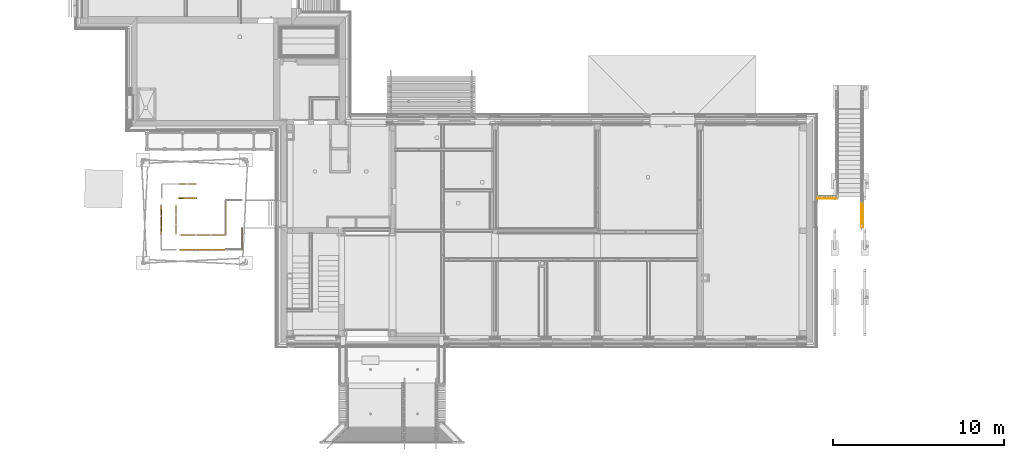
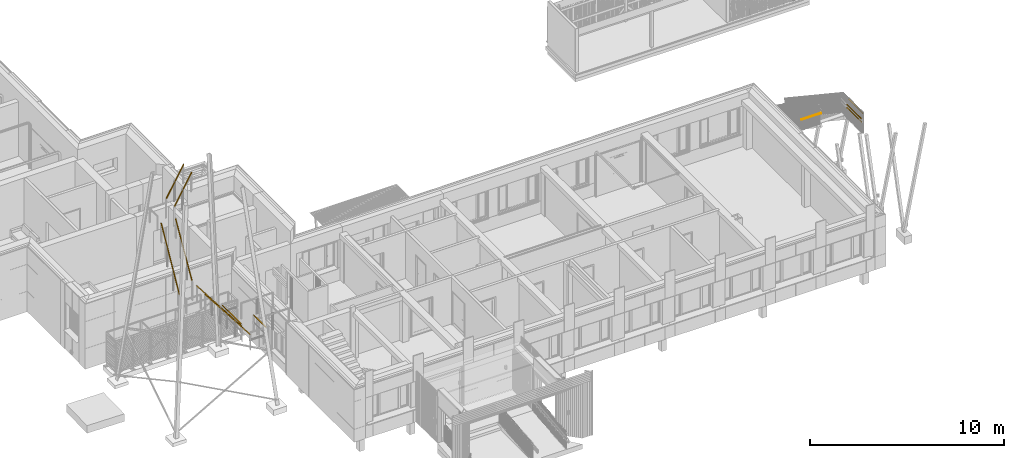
# One storey, part 169 of 418: 12 railings, 10 elements without a shape of their own.
"""IFC2X3 building model written with IfcOpenShell, lengths in millimetres."""

from ifc_helpers import new_model, entity, si_unit, converted_unit, derived_unit, money_unit, direction, frame, origin_with_axes, place, context, subcontext, project, spatial, faceted_brep, material, type_object, element, aggregate, save


model = new_model("IFC2X3")

# Units and contexts
model_context = context("Model", 3, precision=0.01, world=origin_with_axes(), true_north=direction((0.0, 1.0)))
body_context = subcontext(model_context, "Body", "Model", "MODEL_VIEW")
ifc_project = project(units=[si_unit("LENGTHUNIT", "METRE", prefix="MILLI"), si_unit("AREAUNIT", "SQUARE_METRE"), si_unit("VOLUMEUNIT", "CUBIC_METRE"), converted_unit("PLANEANGLEUNIT", "DEGREE", entity("IfcPlaneAngleMeasure", 0.0174532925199), si_unit("PLANEANGLEUNIT", "RADIAN"), dimensions=[0, 0, 0, 0, 0, 0, 0]), si_unit("SOLIDANGLEUNIT", "STERADIAN"), money_unit("EUR"), converted_unit("TIMEUNIT", "Year", entity("IfcTimeMeasure", 31556926.0), si_unit("TIMEUNIT", "SECOND"), dimensions=[0, 0, 1, 0, 0, 0, 0]), si_unit("MASSUNIT", "GRAM", prefix="KILO"), si_unit("THERMODYNAMICTEMPERATUREUNIT", "DEGREE_CELSIUS"), si_unit("LUMINOUSINTENSITYUNIT", "LUMEN"), si_unit("ENERGYUNIT", "JOULE", prefix="MEGA"), derived_unit("THERMALCONDUCTANCEUNIT", [(si_unit("POWERUNIT", "WATT"), 1), (si_unit("LENGTHUNIT", "METRE"), -1), (si_unit("THERMODYNAMICTEMPERATUREUNIT", "KELVIN"), -1)]), derived_unit("SPECIFICHEATCAPACITYUNIT", [(si_unit("ENERGYUNIT", "JOULE"), 1), (si_unit("MASSUNIT", "GRAM", prefix="KILO"), -1), (si_unit("THERMODYNAMICTEMPERATUREUNIT", "KELVIN"), -1)]), derived_unit("MASSDENSITYUNIT", [(si_unit("MASSUNIT", "GRAM", prefix="KILO"), 1), (si_unit("VOLUMEUNIT", "CUBIC_METRE"), -1)])], contexts=[model_context])

# Site, building, storey
site_placement = place(None, origin_with_axes())
site = spatial("IfcSite", under=ifc_project, at=site_placement, Name="Paldiski mnt 245/1, Tallinn, Harjumaa", CompositionType="COMPLEX")
building_placement = place(site_placement, origin_with_axes())
building = spatial("IfcBuilding", under=site, at=building_placement, Name="RKAS Hoone üldnimetus (kasutust iseloomustav) -> IFC Project Manager -> SOLIBRI", CompositionType="ELEMENT")
storey_placement = place(building_placement, origin_with_axes())
storey = spatial("IfcBuildingStorey", under=building, at=storey_placement, Name="Esimene korrus", CompositionType="ELEMENT", Elevation=0.0)

# Railings
railing_type_1 = type_object("IfcRailingType", Name="Railing Type", PredefinedType="NOTDEFINED")
railing_1_placement = place(storey_placement, frame((-13938.0000282, 1623.82640275, -670.434782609), z_axis=(0.0, 0.0, 1.0), x_axis=(0.773149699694, 0.634223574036, 0.0)))
railing_1 = element("IfcRailing", 1, at=railing_1_placement, inside=storey, type_object=railing_type_1, Name="Trepipiire", PredefinedType="NOTDEFINED")
ifc_material_1 = material(Name="RAL7016")
railing_type_2 = type_object("IfcRailingType", Name="IfcRailing", PredefinedType="GUARDRAIL")
railing_2_placement = place(railing_1_placement, frame((-4440.50312879, -5452.60977688, 5123.50895857), z_axis=(0.0, 0.0, 1.0), x_axis=(0.773149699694, -0.634223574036, 0.0)))
railing_2 = element("IfcRailing", 2, at=railing_2_placement, type_object=railing_type_2, material=ifc_material_1, PredefinedType="GUARDRAIL", context=body_context, shape_type="Brep", body=[
    faceted_brep([(25.0, 740.01108329, 16.9258240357), (25.0, 740.01108329, 26.9258240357), (25.0, -740.01108329, 26.9258240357), (25.0, -740.01108329, 16.9258240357), (-25.0, 740.01108329, 26.9258240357), (-25.0, 740.01108329, 16.9258240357), (-25.0, -740.01108329, 26.9258240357), (-25.0, -740.01108329, 16.9258240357)], [[[0, 1, 2, 3]], [[4, 1, 0, 5]], [[1, 4, 6, 2]], [[7, 3, 2, 6]], [[5, 0, 3, 7]], [[4, 5, 7, 6]]]),
])

railing_3_placement = place(storey_placement, frame((-50030.6058534, -4525.08408706, 3600.0), z_axis=(0.0, 0.0, 1.0), x_axis=(-0.773149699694, -0.634223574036, 0.0)))
railing_3 = element("IfcRailing", 3, at=railing_3_placement, inside=storey, type_object=railing_type_1, Name="PIIRE", PredefinedType="NOTDEFINED")
ifc_material_2 = material(Name="ET-07_Teras - Roostevaba")
railing_4_placement = place(railing_3_placement, frame((1550.44928879, 54.3337093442, 844.098300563), z_axis=(0.0, 0.0, 1.0), x_axis=(-0.773149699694, 0.634223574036, 0.0)))
railing_4 = element("IfcRailing", 4, at=railing_4_placement, type_object=railing_type_2, material=ifc_material_2, Name="Piirde Ülaosa - 001", PredefinedType="GUARDRAIL", context=body_context, shape_type="Brep", body=[
    faceted_brep([(-15.0, 975.339580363, 45.9016994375), (15.0, 975.339580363, 45.9016994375), (15.0, -975.339580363, 45.9016994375), (-15.0, -975.339580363, 45.9016994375), (-25.0, 975.339580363, 55.9016994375), (25.0, 975.339580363, 55.9016994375), (25.0, 975.339580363, 5.9016994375), (-25.0, 975.339580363, 5.9016994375), (15.0, 975.339580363, 15.9016994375), (-15.0, 975.339580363, 15.9016994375), (15.0, -975.339580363, 15.9016994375), (-25.0, -975.339580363, 5.9016994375), (25.0, -975.339580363, 5.9016994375), (25.0, -975.339580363, 55.9016994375), (-25.0, -975.339580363, 55.9016994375), (-15.0, -975.339580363, 15.9016994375)], [[[0, 1, 2, 3]], [[4, 5, 6, 7], [8, 1, 0, 9]], [[1, 8, 10, 2]], [[11, 12, 13, 14], [2, 10, 15, 3]], [[9, 0, 3, 15]], [[5, 4, 14, 13]], [[6, 5, 13, 12]], [[7, 6, 12, 11]], [[4, 7, 11, 14]], [[8, 9, 15, 10]]]),
])
aggregate(railing_3, [railing_4])

railing_5_placement = place(storey_placement, frame((-51169.8755361, -7415.24631697, 3489.375), z_axis=(0.0, 0.0, 1.0), x_axis=(-0.773149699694, -0.634223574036, 0.0)))
railing_5 = element("IfcRailing", 5, at=railing_5_placement, inside=storey, type_object=railing_type_1, Name="PIIRE", PredefinedType="NOTDEFINED")
railing_6_placement = place(railing_5_placement, frame((1038.82964649, -852.163884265, 844.098300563), z_axis=(0.0, 0.0, 1.0), x_axis=(-0.773149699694, 0.634223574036, 0.0)))
railing_6 = element("IfcRailing", 6, at=railing_6_placement, type_object=railing_type_2, material=ifc_material_2, Name="Piirde Ülaosa - 001", PredefinedType="GUARDRAIL", context=body_context, shape_type="Brep", body=[
    faceted_brep([(1343.63325356, 24.9999999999, 55.9016994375), (1304.17892428, 24.9999999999, 25.1876000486), (-1383.08758284, 25.0000000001, 3477.1624174), (-1343.63325356, 25.0000000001, 3507.87651678), (1343.63325356, -25.0000000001, 55.9016994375), (1304.17892428, -25.0000000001, 25.1876000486), (1335.7423877, 14.9999999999, 49.7588795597), (1312.06979014, 14.9999999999, 31.3304199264), (1312.06979014, -15.0000000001, 31.3304199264), (1335.7423877, -15.0000000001, 49.7588795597), (-1383.08758284, -24.9999999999, 3477.1624174), (-1343.63325356, -24.9999999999, 3507.87651678), (-1351.52411941, 15.0000000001, 3501.73369691), (-1351.52411941, -14.9999999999, 3501.73369691), (-1375.19671698, -14.9999999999, 3483.30523727), (-1375.19671698, 15.0000000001, 3483.30523727)], [[[0, 1, 2, 3]], [[0, 4, 5, 1], [6, 7, 8, 9]], [[1, 5, 10, 2]], [[3, 2, 10, 11], [12, 13, 14, 15]], [[4, 0, 3, 11]], [[5, 4, 11, 10]], [[7, 6, 12, 15]], [[8, 7, 15, 14]], [[9, 8, 14, 13]], [[6, 9, 13, 12]]]),
])
aggregate(railing_5, [railing_6])

railing_7_placement = place(storey_placement, frame((-50030.6058534, -6155.24631697, 3600.0), z_axis=(0.0, 0.0, 1.0), x_axis=(-0.773149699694, -0.634223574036, 0.0)))
railing_7 = element("IfcRailing", 7, at=railing_7_placement, inside=storey, type_object=railing_type_1, Name="PIIRE", PredefinedType="NOTDEFINED")
railing_8_placement = place(railing_7_placement, frame((558.05654008, 357.06847813, 844.098300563), z_axis=(0.0, 0.0, 1.0), x_axis=(-0.773149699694, 0.634223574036, 0.0)))
railing_8 = element("IfcRailing", 8, at=railing_8_placement, type_object=railing_type_2, material=ifc_material_2, Name="Piirde Ülaosa - 001", PredefinedType="GUARDRAIL", context=body_context, shape_type="Brep", body=[
    faceted_brep([(-25.0, 630.0, 55.9016994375), (-25.0, 630.0, 5.9016994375), (-25.0, -605.0, 5.9016994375), (-25.0, -605.0, 55.9016994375), (25.0, 630.0, 55.9016994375), (25.0, 630.0, 5.9016994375), (-15.0, 630.0, 45.9016994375), (-15.0, 630.0, 15.9016994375), (15.0, 630.0, 15.9016994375), (15.0, 630.0, 45.9016994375), (25.0, -655.0, 5.9016994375), (25.0, -655.0, 55.9016994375), (-15.0, -615.0, 45.9016994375), (15.0, -645.0, 45.9016994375), (15.0, -645.0, 15.9016994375), (-15.0, -615.0, 15.9016994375)], [[[0, 1, 2, 3]], [[0, 4, 5, 1], [6, 7, 8, 9]], [[1, 5, 10, 2]], [[3, 2, 10, 11], [12, 13, 14, 15]], [[4, 0, 3, 11]], [[5, 4, 11, 10]], [[7, 6, 12, 15]], [[8, 7, 15, 14]], [[9, 8, 14, 13]], [[6, 9, 13, 12]]]),
])
aggregate(railing_7, [railing_8])

railing_9_placement = place(storey_placement, frame((-51169.8755361, -6565.24631697, 3489.375), z_axis=(0.0, 0.0, 1.0), x_axis=(-0.769638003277, -0.638480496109, 0.0)))
railing_9 = element("IfcRailing", 9, at=railing_9_placement, inside=storey, type_object=railing_type_1, Name="PIIRE", PredefinedType="NOTDEFINED")
railing_10_placement = place(railing_9_placement, frame((1032.00238669, -856.134173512, 844.098300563), z_axis=(0.0, 0.0, 1.0), x_axis=(-0.769638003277, 0.638480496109, 0.0)))
railing_10 = element("IfcRailing", 10, at=railing_10_placement, type_object=railing_type_2, material=ifc_material_2, Name="Piirde Ülaosa - 001", PredefinedType="GUARDRAIL", context=body_context, shape_type="Brep", body=[
    faceted_brep([(1340.89322811, 25.0, 55.9016994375), (1301.30311508, 25.0, 25.3628233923), (-1380.48334114, 25.0, 3501.98811808), (-1340.89322811, 25.0, 3532.52699412), (1340.89322811, -25.0, 55.9016994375), (1301.30311508, -25.0, 25.3628233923), (1332.9752055, 15.0, 49.7939242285), (1309.22113768, 15.0, 31.4705986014), (1309.22113768, -15.0, 31.4705986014), (1332.9752055, -15.0, 49.7939242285), (-1380.48334114, -25.0, 3501.98811808), (-1340.89322811, -25.0, 3532.52699412), (-1348.81125072, 15.0, 3526.41921891), (-1348.81125072, -15.0, 3526.41921891), (-1372.56531854, -15.0, 3508.09589329), (-1372.56531854, 15.0, 3508.09589329)], [[[0, 1, 2, 3]], [[0, 4, 5, 1], [6, 7, 8, 9]], [[1, 5, 10, 2]], [[3, 2, 10, 11], [12, 13, 14, 15]], [[4, 0, 3, 11]], [[5, 4, 11, 10]], [[7, 6, 12, 15]], [[8, 7, 15, 14]], [[9, 8, 14, 13]], [[6, 9, 13, 12]]]),
])
aggregate(railing_9, [railing_10])

railing_11_placement = place(storey_placement, frame((-53974.8755361, -4417.03979706, 10484.375), z_axis=(0.0, 0.0, 1.0), x_axis=(-0.773149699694, -0.634223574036, 0.0)))
railing_11 = element("IfcRailing", 11, at=railing_11_placement, inside=storey, type_object=railing_type_1, Name="PIIRE", PredefinedType="NOTDEFINED")
railing_12_placement = place(railing_11_placement, frame((-399.537781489, 327.745428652, 1044.09830056), z_axis=(0.0, 0.0, 1.0), x_axis=(-0.773149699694, 0.634223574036, 0.0)))
railing_12 = element("IfcRailing", 12, at=railing_12_placement, type_object=railing_type_2, material=ifc_material_2, Name="Piirde Ülaosa - 001", PredefinedType="GUARDRAIL", context=body_context, shape_type="Brep", body=[
    faceted_brep([(-516.766392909, -25.0000000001, 55.9016994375), (-473.387774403, -25.0, 31.0361518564), (560.145011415, -24.9999999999, 1834.06197637), (516.766392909, -24.9999999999, 1858.92752395), (-516.766392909, 24.9999999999, 55.9016994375), (-473.387774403, 25.0, 31.0361518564), (-508.090669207, -15.0000000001, 50.9285899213), (-482.063498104, -15.0, 36.0092613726), (-482.063498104, 15.0, 36.0092613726), (-508.090669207, 14.9999999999, 50.9285899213), (560.145011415, 25.0000000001, 1834.06197637), (516.766392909, 25.0000000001, 1858.92752395), (525.44211661, -14.9999999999, 1853.95441443), (525.44211661, 15.0000000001, 1853.95441443), (551.469287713, 15.0000000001, 1839.03508588), (551.469287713, -14.9999999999, 1839.03508588)], [[[0, 1, 2, 3]], [[0, 4, 5, 1], [6, 7, 8, 9]], [[1, 5, 10, 2]], [[3, 2, 10, 11], [12, 13, 14, 15]], [[4, 0, 3, 11]], [[5, 4, 11, 10]], [[7, 6, 12, 15]], [[8, 7, 15, 14]], [[9, 8, 14, 13]], [[6, 9, 13, 12]]]),
])
aggregate(railing_11, [railing_12])

railing_13_placement = place(storey_placement, frame((-53974.8966499, -3578.67012715, 10477.0519033), z_axis=(0.0, 0.0, 1.0), x_axis=(-0.773149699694, -0.634223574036, 0.0)))
railing_13 = element("IfcRailing", 13, at=railing_13_placement, inside=storey, type_object=railing_type_1, Name="PIIRE", PredefinedType="NOTDEFINED")
railing_14_placement = place(railing_13_placement, frame((-399.545943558, 327.752124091, 1044.09830056), z_axis=(0.0, 0.0, 1.0), x_axis=(-0.773149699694, 0.634223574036, 0.0)))
railing_14 = element("IfcRailing", 14, at=railing_14_placement, type_object=railing_type_2, material=ifc_material_2, Name="Piirde Ülaosa - 001", PredefinedType="GUARDRAIL", context=body_context, shape_type="Brep", body=[
    faceted_brep([(-516.776949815, -25.0000000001, 55.9016994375), (-473.355174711, -25.0, 31.1115915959), (560.198724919, -24.9999999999, 1841.46051281), (516.776949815, -24.9999999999, 1866.25062065), (-516.776949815, 24.9999999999, 55.9016994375), (-473.355174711, 25.0, 31.1115915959), (-508.092594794, -15.0000000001, 50.9436778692), (-482.039529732, -15.0, 36.0696131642), (-482.039529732, 15.0, 36.0696131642), (-508.092594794, 14.9999999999, 50.9436778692), (560.198724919, 25.0000000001, 1841.46051281), (516.776949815, 25.0000000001, 1866.25062065), (525.461304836, -14.9999999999, 1861.29259908), (525.461304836, 15.0000000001, 1861.29259908), (551.514369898, 15.0000000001, 1846.41853438), (551.514369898, -14.9999999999, 1846.41853438)], [[[0, 1, 2, 3]], [[0, 4, 5, 1], [6, 7, 8, 9]], [[1, 5, 10, 2]], [[3, 2, 10, 11], [12, 13, 14, 15]], [[4, 0, 3, 11]], [[5, 4, 11, 10]], [[7, 6, 12, 15]], [[8, 7, 15, 14]], [[9, 8, 14, 13]], [[6, 9, 13, 12]]]),
])
aggregate(railing_13, [railing_14])

railing_15_placement = place(storey_placement, frame((-54969.9885641, -6809.15801731, 6695.37509918), z_axis=(0.0, 0.0, 1.0), x_axis=(-0.779497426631, -0.626405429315, 0.0)))
railing_15 = element("IfcRailing", 15, at=railing_15_placement, inside=storey, type_object=railing_type_1, Name="PIIRE", PredefinedType="NOTDEFINED")
railing_16_placement = place(railing_15_placement, frame((-635.082743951, -805.285235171, 1044.09830056), z_axis=(0.0, 0.0, 1.0), x_axis=(-0.779497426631, 0.626405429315, 0.0)))
railing_16 = element("IfcRailing", 16, at=railing_16_placement, type_object=railing_type_2, material=ifc_material_2, Name="Piirde Ülaosa - 001", PredefinedType="GUARDRAIL", context=body_context, shape_type="Brep", body=[
    faceted_brep([(14.3227040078, -957.4685536, 55.9016994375), (14.8061790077, -914.12005904, 30.9883642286), (36.1576614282, 1000.25942219, 3362.36855645), (35.6741864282, 956.910927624, 3387.28189166), (-35.6741864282, -956.910927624, 55.9016994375), (-35.1907114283, -913.562433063, 30.9883642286), (4.42002092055, -948.687329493, 50.9190323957), (4.71010592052, -922.678232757, 35.9710312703), (-25.2880283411, -922.343657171, 35.9710312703), (-25.5781133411, -948.352753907, 50.9190323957), (-13.8392290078, 1000.81704816, 3362.36855645), (-14.3227040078, 957.4685536, 3387.28189166), (25.771503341, 965.692151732, 3382.29922462), (-4.22663092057, 966.026727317, 3382.29922462), (-3.93654592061, 992.035824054, 3367.35122349), (26.061588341, 991.701248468, 3367.35122349)], [[[0, 1, 2, 3]], [[0, 4, 5, 1], [6, 7, 8, 9]], [[1, 5, 10, 2]], [[3, 2, 10, 11], [12, 13, 14, 15]], [[4, 0, 3, 11]], [[5, 4, 11, 10]], [[7, 6, 12, 15]], [[8, 7, 15, 14]], [[9, 8, 14, 13]], [[6, 9, 13, 12]]]),
])
aggregate(railing_15, [railing_16])

railing_17_placement = place(storey_placement, frame((-54128.7198793, -6586.53415052, 7130.64215171), z_axis=(0.0, 0.0, 1.0), x_axis=(-0.854429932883, -0.519566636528, 0.0)))
railing_17 = element("IfcRailing", 17, at=railing_17_placement, inside=storey, type_object=railing_type_1, Name="PIIRE", PredefinedType="NOTDEFINED")
railing_18_placement = place(railing_17_placement, frame((-489.744073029, -773.896923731, 1044.09830056), z_axis=(0.0, 0.0, 1.0), x_axis=(-0.854429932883, 0.519566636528, 0.0)))
railing_18 = element("IfcRailing", 18, at=railing_18_placement, type_object=railing_type_2, material=ifc_material_2, Name="Piirde Ülaosa - 001", PredefinedType="GUARDRAIL", context=body_context, shape_type="Brep", body=[
    faceted_brep([(27.5165194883, -844.333035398, 55.9016994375), (27.3877907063, -801.140538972, 30.7145661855), (22.3545296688, 887.67454869, 2926.82770588), (22.4832584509, 844.482052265, 2952.01483913), (-22.4832584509, -844.482052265, 55.9016994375), (-22.611987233, -801.28955584, 30.7145661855), (17.4908181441, -835.724339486, 50.8642727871), (17.4135808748, -809.808841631, 35.7519928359), (-12.5862858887, -809.898251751, 35.7519928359), (-12.5090486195, -835.813749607, 50.8642727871), (-27.6452482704, 887.525531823, 2926.82770588), (-27.5165194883, 844.333035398, 2952.01483913), (12.4575571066, 853.090748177, 2946.97741248), (-17.5423096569, 853.001338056, 2946.97741248), (-17.6195469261, 878.916835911, 2931.86513253), (12.3803198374, 879.006246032, 2931.86513253)], [[[0, 1, 2, 3]], [[0, 4, 5, 1], [6, 7, 8, 9]], [[1, 5, 10, 2]], [[3, 2, 10, 11], [12, 13, 14, 15]], [[4, 0, 3, 11]], [[5, 4, 11, 10]], [[7, 6, 12, 15]], [[8, 7, 15, 14]], [[9, 8, 14, 13]], [[6, 9, 13, 12]]]),
])
aggregate(railing_17, [railing_18])

railing_19_placement = place(storey_placement, frame((-15438.0000282, 781.88210964, -670.434782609), z_axis=(0.0, 0.0, 1.0), x_axis=(-0.773149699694, -0.634223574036, 0.0)))
railing_19 = element("IfcRailing", 19, at=railing_19_placement, inside=storey, type_object=railing_type_1, Name="Trepipiire", PredefinedType="NOTDEFINED")
railing_type_3 = type_object("IfcRailingType", Name="IfcRailing", PredefinedType="HANDRAIL")
railing_20_placement = place(railing_19_placement, frame((3730.46131201, 3659.12771487, 4605.71342306), z_axis=(0.0, 0.0, 1.0), x_axis=(-0.773149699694, 0.634223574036, 0.0)))
railing_20 = element("IfcRailing", 20, at=railing_20_placement, type_object=railing_type_3, material=ifc_material_2, Name="Piirde Käsipuu - 001", PredefinedType="HANDRAIL", context=body_context, shape_type="Brep", body=[
    faceted_brep([(578.499985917, 19.6961550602, 28.1943231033), (578.499985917, 20.0, 24.72135955), (-578.499985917, 20.0, 24.72135955), (-578.499985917, 19.6961550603, 28.1943231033), (578.499985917, 19.6961550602, 21.2483959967), (578.499985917, 18.7938524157, 31.5617624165), (578.499985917, 17.3205080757, 34.72135955), (578.499985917, 15.3208888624, 37.5771117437), (578.499985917, 12.8557521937, 40.0422484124), (578.499985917, 9.99999999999, 42.0418676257), (578.499985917, 6.8404028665, 43.5152119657), (578.499985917, 3.47296355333, 44.4175146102), (578.499985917, 0.0, 44.72135955), (578.499985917, -3.47296355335, 44.4175146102), (578.499985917, -6.84040286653, 43.5152119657), (578.499985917, -10.0, 42.0418676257), (578.499985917, -12.8557521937, 40.0422484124), (578.499985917, -15.3208888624, 37.5771117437), (578.499985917, -17.3205080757, 34.72135955), (578.499985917, -18.7938524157, 31.5617624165), (578.499985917, -19.6961550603, 28.1943231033), (578.499985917, -20.0, 24.72135955), (578.499985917, -19.6961550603, 21.2483959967), (578.499985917, -18.7938524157, 17.8809566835), (578.499985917, -17.3205080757, 14.72135955), (578.499985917, -15.3208888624, 11.8656073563), (578.499985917, -12.8557521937, 9.40047068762), (578.499985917, -10.0, 7.40085147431), (578.499985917, -6.84040286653, 5.92750713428), (578.499985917, -3.47296355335, 5.02520448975), (578.499985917, 0.0, 4.72135955), (578.499985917, 3.47296355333, 5.02520448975), (578.499985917, 6.8404028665, 5.92750713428), (578.499985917, 9.99999999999, 7.40085147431), (578.499985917, 12.8557521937, 9.40047068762), (578.499985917, 15.3208888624, 11.8656073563), (578.499985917, 17.3205080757, 14.72135955), (578.499985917, 18.7938524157, 17.8809566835), (-578.499985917, 19.6961550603, 21.2483959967), (-578.499985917, -17.3205080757, 14.72135955), (-578.499985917, -18.7938524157, 17.8809566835), (-578.499985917, -19.6961550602, 21.2483959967), (-578.499985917, -20.0, 24.72135955), (-578.499985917, -19.6961550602, 28.1943231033), (-578.499985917, -18.7938524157, 31.5617624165), (-578.499985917, -17.3205080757, 34.72135955), (-578.499985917, -15.3208888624, 37.5771117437), (-578.499985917, -12.8557521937, 40.0422484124), (-578.499985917, -9.99999999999, 42.0418676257), (-578.499985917, -6.8404028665, 43.5152119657), (-578.499985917, -3.47296355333, 44.4175146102), (-578.499985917, 0.0, 44.72135955), (-578.499985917, 3.47296355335, 44.4175146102), (-578.499985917, 6.84040286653, 43.5152119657), (-578.499985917, 10.0, 42.0418676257), (-578.499985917, 12.8557521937, 40.0422484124), (-578.499985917, 15.3208888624, 37.5771117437), (-578.499985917, 17.3205080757, 34.72135955), (-578.499985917, 18.7938524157, 31.5617624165), (-578.499985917, 18.7938524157, 17.8809566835), (-578.499985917, 17.3205080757, 14.72135955), (-578.499985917, 15.3208888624, 11.8656073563), (-578.499985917, 12.8557521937, 9.40047068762), (-578.499985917, 10.0, 7.40085147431), (-578.499985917, 6.84040286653, 5.92750713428), (-578.499985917, 3.47296355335, 5.02520448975), (-578.499985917, 0.0, 4.72135955), (-578.499985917, -3.47296355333, 5.02520448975), (-578.499985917, -6.8404028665, 5.92750713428), (-578.499985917, -9.99999999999, 7.40085147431), (-578.499985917, -12.8557521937, 9.40047068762), (-578.499985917, -15.3208888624, 11.8656073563)], [[[0, 1, 2, 3]], [[4, 1, 0, 5, 6, 7, 8, 9, 10, 11, 12, 13, 14, 15, 16, 17, 18, 19, 20, 21, 22, 23, 24, 25, 26, 27, 28, 29, 30, 31, 32, 33, 34, 35, 36, 37]], [[1, 4, 38, 2]], [[39, 40, 41, 42, 43, 44, 45, 46, 47, 48, 49, 50, 51, 52, 53, 54, 55, 56, 57, 58, 3, 2, 38, 59, 60, 61, 62, 63, 64, 65, 66, 67, 68, 69, 70, 71]], [[5, 0, 3, 58]], [[6, 5, 58, 57]], [[7, 6, 57, 56]], [[8, 7, 56, 55]], [[9, 8, 55, 54]], [[10, 9, 54, 53]], [[11, 10, 53, 52]], [[12, 11, 52, 51]], [[13, 12, 51, 50]], [[14, 13, 50, 49]], [[15, 14, 49, 48]], [[16, 15, 48, 47]], [[17, 16, 47, 46]], [[18, 17, 46, 45]], [[19, 18, 45, 44]], [[20, 19, 44, 43]], [[21, 20, 43, 42]], [[22, 21, 42, 41]], [[23, 22, 41, 40]], [[24, 23, 40, 39]], [[25, 24, 39, 71]], [[26, 25, 71, 70]], [[27, 26, 70, 69]], [[28, 27, 69, 68]], [[29, 28, 68, 67]], [[30, 29, 67, 66]], [[31, 30, 66, 65]], [[32, 31, 65, 64]], [[33, 32, 64, 63]], [[34, 33, 63, 62]], [[35, 34, 62, 61]], [[36, 35, 61, 60]], [[37, 36, 60, 59]], [[4, 37, 59, 38]]]),
])
aggregate(railing_19, [railing_20])

# Railing
railing_21_placement = place(railing_1_placement, frame((-4510.08660177, -5395.52965522, 4605.71342306), z_axis=(0.0, 0.0, 1.0), x_axis=(0.773149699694, -0.634223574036, 0.0)))
railing_21 = element("IfcRailing", 21, at=railing_21_placement, type_object=railing_type_3, material=ifc_material_2, Name="Piirde Käsipuu - 001", PredefinedType="HANDRAIL", context=body_context, shape_type="Brep", body=[
    faceted_brep([(19.6961550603, 740.01108329, 21.2483959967), (20.0, 740.01108329, 24.72135955), (20.0, -740.01108329, 24.72135955), (19.6961550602, -740.01108329, 21.2483959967), (19.6961550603, 740.01108329, 28.1943231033), (18.7938524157, 740.01108329, 17.8809566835), (17.3205080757, 740.01108329, 14.72135955), (15.3208888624, 740.01108329, 11.8656073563), (12.8557521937, 740.01108329, 9.40047068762), (10.0, 740.01108329, 7.40085147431), (6.84040286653, 740.01108329, 5.92750713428), (3.47296355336, 740.01108329, 5.02520448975), (0.0, 740.01108329, 4.72135955), (-3.47296355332, 740.01108329, 5.02520448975), (-6.8404028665, 740.01108329, 5.92750713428), (-9.99999999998, 740.01108329, 7.40085147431), (-12.8557521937, 740.01108329, 9.40047068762), (-15.3208888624, 740.01108329, 11.8656073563), (-17.3205080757, 740.01108329, 14.72135955), (-18.7938524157, 740.01108329, 17.8809566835), (-19.6961550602, 740.01108329, 21.2483959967), (-20.0, 740.01108329, 24.72135955), (-19.6961550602, 740.01108329, 28.1943231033), (-18.7938524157, 740.01108329, 31.5617624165), (-17.3205080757, 740.01108329, 34.72135955), (-15.3208888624, 740.01108329, 37.5771117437), (-12.8557521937, 740.01108329, 40.0422484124), (-9.99999999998, 740.01108329, 42.0418676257), (-6.8404028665, 740.01108329, 43.5152119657), (-3.47296355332, 740.01108329, 44.4175146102), (0.0, 740.01108329, 44.72135955), (3.47296355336, 740.01108329, 44.4175146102), (6.84040286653, 740.01108329, 43.5152119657), (10.0, 740.01108329, 42.0418676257), (12.8557521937, 740.01108329, 40.0422484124), (15.3208888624, 740.01108329, 37.5771117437), (17.3205080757, 740.01108329, 34.72135955), (18.7938524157, 740.01108329, 31.5617624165), (19.6961550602, -740.01108329, 28.1943231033), (17.3205080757, -740.01108329, 14.72135955), (18.7938524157, -740.01108329, 17.8809566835), (18.7938524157, -740.01108329, 31.5617624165), (17.3205080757, -740.01108329, 34.72135955), (15.3208888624, -740.01108329, 37.5771117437), (12.8557521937, -740.01108329, 40.0422484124), (9.99999999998, -740.01108329, 42.0418676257), (6.8404028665, -740.01108329, 43.5152119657), (3.47296355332, -740.01108329, 44.4175146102), (0.0, -740.01108329, 44.72135955), (-3.47296355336, -740.01108329, 44.4175146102), (-6.84040286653, -740.01108329, 43.5152119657), (-10.0, -740.01108329, 42.0418676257), (-12.8557521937, -740.01108329, 40.0422484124), (-15.3208888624, -740.01108329, 37.5771117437), (-17.3205080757, -740.01108329, 34.72135955), (-18.7938524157, -740.01108329, 31.5617624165), (-19.6961550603, -740.01108329, 28.1943231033), (-20.0, -740.01108329, 24.72135955), (-19.6961550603, -740.01108329, 21.2483959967), (-18.7938524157, -740.01108329, 17.8809566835), (-17.3205080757, -740.01108329, 14.72135955), (-15.3208888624, -740.01108329, 11.8656073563), (-12.8557521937, -740.01108329, 9.40047068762), (-10.0, -740.01108329, 7.40085147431), (-6.84040286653, -740.01108329, 5.92750713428), (-3.47296355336, -740.01108329, 5.02520448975), (0.0, -740.01108329, 4.72135955), (3.47296355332, -740.01108329, 5.02520448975), (6.8404028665, -740.01108329, 5.92750713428), (9.99999999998, -740.01108329, 7.40085147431), (12.8557521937, -740.01108329, 9.40047068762), (15.3208888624, -740.01108329, 11.8656073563)], [[[0, 1, 2, 3]], [[4, 1, 0, 5, 6, 7, 8, 9, 10, 11, 12, 13, 14, 15, 16, 17, 18, 19, 20, 21, 22, 23, 24, 25, 26, 27, 28, 29, 30, 31, 32, 33, 34, 35, 36, 37]], [[1, 4, 38, 2]], [[39, 40, 3, 2, 38, 41, 42, 43, 44, 45, 46, 47, 48, 49, 50, 51, 52, 53, 54, 55, 56, 57, 58, 59, 60, 61, 62, 63, 64, 65, 66, 67, 68, 69, 70, 71]], [[5, 0, 3, 40]], [[6, 5, 40, 39]], [[7, 6, 39, 71]], [[8, 7, 71, 70]], [[9, 8, 70, 69]], [[10, 9, 69, 68]], [[11, 10, 68, 67]], [[12, 11, 67, 66]], [[13, 12, 66, 65]], [[14, 13, 65, 64]], [[15, 14, 64, 63]], [[16, 15, 63, 62]], [[17, 16, 62, 61]], [[18, 17, 61, 60]], [[19, 18, 60, 59]], [[20, 19, 59, 58]], [[21, 20, 58, 57]], [[22, 21, 57, 56]], [[23, 22, 56, 55]], [[24, 23, 55, 54]], [[25, 24, 54, 53]], [[26, 25, 53, 52]], [[27, 26, 52, 51]], [[28, 27, 51, 50]], [[29, 28, 50, 49]], [[30, 29, 49, 48]], [[31, 30, 48, 47]], [[32, 31, 47, 46]], [[33, 32, 46, 45]], [[34, 33, 45, 44]], [[35, 34, 44, 43]], [[36, 35, 43, 42]], [[37, 36, 42, 41]], [[4, 37, 41, 38]]]),
])

railing_22_placement = place(railing_1_placement, frame((-4510.08660177, -5395.52965522, 4805.71342306), z_axis=(0.0, 0.0, 1.0), x_axis=(0.773149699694, -0.634223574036, 0.0)))
railing_22 = element("IfcRailing", 22, at=railing_22_placement, type_object=railing_type_3, material=ifc_material_2, Name="Piirde Käsipuu - 001", PredefinedType="HANDRAIL", context=body_context, shape_type="Brep", body=[
    faceted_brep([(19.6961550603, 740.01108329, 21.2483959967), (20.0, 740.01108329, 24.72135955), (20.0, -740.01108329, 24.72135955), (19.6961550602, -740.01108329, 21.2483959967), (19.6961550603, 740.01108329, 28.1943231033), (18.7938524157, 740.01108329, 17.8809566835), (17.3205080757, 740.01108329, 14.72135955), (15.3208888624, 740.01108329, 11.8656073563), (12.8557521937, 740.01108329, 9.40047068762), (10.0, 740.01108329, 7.40085147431), (6.84040286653, 740.01108329, 5.92750713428), (3.47296355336, 740.01108329, 5.02520448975), (0.0, 740.01108329, 4.72135955), (-3.47296355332, 740.01108329, 5.02520448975), (-6.8404028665, 740.01108329, 5.92750713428), (-9.99999999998, 740.01108329, 7.40085147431), (-12.8557521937, 740.01108329, 9.40047068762), (-15.3208888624, 740.01108329, 11.8656073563), (-17.3205080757, 740.01108329, 14.72135955), (-18.7938524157, 740.01108329, 17.8809566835), (-19.6961550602, 740.01108329, 21.2483959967), (-20.0, 740.01108329, 24.72135955), (-19.6961550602, 740.01108329, 28.1943231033), (-18.7938524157, 740.01108329, 31.5617624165), (-17.3205080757, 740.01108329, 34.72135955), (-15.3208888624, 740.01108329, 37.5771117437), (-12.8557521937, 740.01108329, 40.0422484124), (-9.99999999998, 740.01108329, 42.0418676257), (-6.8404028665, 740.01108329, 43.5152119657), (-3.47296355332, 740.01108329, 44.4175146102), (0.0, 740.01108329, 44.72135955), (3.47296355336, 740.01108329, 44.4175146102), (6.84040286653, 740.01108329, 43.5152119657), (10.0, 740.01108329, 42.0418676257), (12.8557521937, 740.01108329, 40.0422484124), (15.3208888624, 740.01108329, 37.5771117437), (17.3205080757, 740.01108329, 34.72135955), (18.7938524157, 740.01108329, 31.5617624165), (19.6961550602, -740.01108329, 28.1943231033), (17.3205080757, -740.01108329, 14.72135955), (18.7938524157, -740.01108329, 17.8809566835), (18.7938524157, -740.01108329, 31.5617624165), (17.3205080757, -740.01108329, 34.72135955), (15.3208888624, -740.01108329, 37.5771117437), (12.8557521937, -740.01108329, 40.0422484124), (9.99999999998, -740.01108329, 42.0418676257), (6.8404028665, -740.01108329, 43.5152119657), (3.47296355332, -740.01108329, 44.4175146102), (0.0, -740.01108329, 44.72135955), (-3.47296355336, -740.01108329, 44.4175146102), (-6.84040286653, -740.01108329, 43.5152119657), (-10.0, -740.01108329, 42.0418676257), (-12.8557521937, -740.01108329, 40.0422484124), (-15.3208888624, -740.01108329, 37.5771117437), (-17.3205080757, -740.01108329, 34.72135955), (-18.7938524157, -740.01108329, 31.5617624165), (-19.6961550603, -740.01108329, 28.1943231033), (-20.0, -740.01108329, 24.72135955), (-19.6961550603, -740.01108329, 21.2483959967), (-18.7938524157, -740.01108329, 17.8809566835), (-17.3205080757, -740.01108329, 14.72135955), (-15.3208888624, -740.01108329, 11.8656073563), (-12.8557521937, -740.01108329, 9.40047068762), (-10.0, -740.01108329, 7.40085147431), (-6.84040286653, -740.01108329, 5.92750713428), (-3.47296355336, -740.01108329, 5.02520448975), (0.0, -740.01108329, 4.72135955), (3.47296355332, -740.01108329, 5.02520448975), (6.8404028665, -740.01108329, 5.92750713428), (9.99999999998, -740.01108329, 7.40085147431), (12.8557521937, -740.01108329, 9.40047068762), (15.3208888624, -740.01108329, 11.8656073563)], [[[0, 1, 2, 3]], [[4, 1, 0, 5, 6, 7, 8, 9, 10, 11, 12, 13, 14, 15, 16, 17, 18, 19, 20, 21, 22, 23, 24, 25, 26, 27, 28, 29, 30, 31, 32, 33, 34, 35, 36, 37]], [[1, 4, 38, 2]], [[39, 40, 3, 2, 38, 41, 42, 43, 44, 45, 46, 47, 48, 49, 50, 51, 52, 53, 54, 55, 56, 57, 58, 59, 60, 61, 62, 63, 64, 65, 66, 67, 68, 69, 70, 71]], [[5, 0, 3, 40]], [[6, 5, 40, 39]], [[7, 6, 39, 71]], [[8, 7, 71, 70]], [[9, 8, 70, 69]], [[10, 9, 69, 68]], [[11, 10, 68, 67]], [[12, 11, 67, 66]], [[13, 12, 66, 65]], [[14, 13, 65, 64]], [[15, 14, 64, 63]], [[16, 15, 63, 62]], [[17, 16, 62, 61]], [[18, 17, 61, 60]], [[19, 18, 60, 59]], [[20, 19, 59, 58]], [[21, 20, 58, 57]], [[22, 21, 57, 56]], [[23, 22, 56, 55]], [[24, 23, 55, 54]], [[25, 24, 54, 53]], [[26, 25, 53, 52]], [[27, 26, 52, 51]], [[28, 27, 51, 50]], [[29, 28, 50, 49]], [[30, 29, 49, 48]], [[31, 30, 48, 47]], [[32, 31, 47, 46]], [[33, 32, 46, 45]], [[34, 33, 45, 44]], [[35, 34, 44, 43]], [[36, 35, 43, 42]], [[37, 36, 42, 41]], [[4, 37, 41, 38]]]),
])

aggregate(railing_1, [railing_21, railing_22, railing_2])

save(model, "model.ifc")
